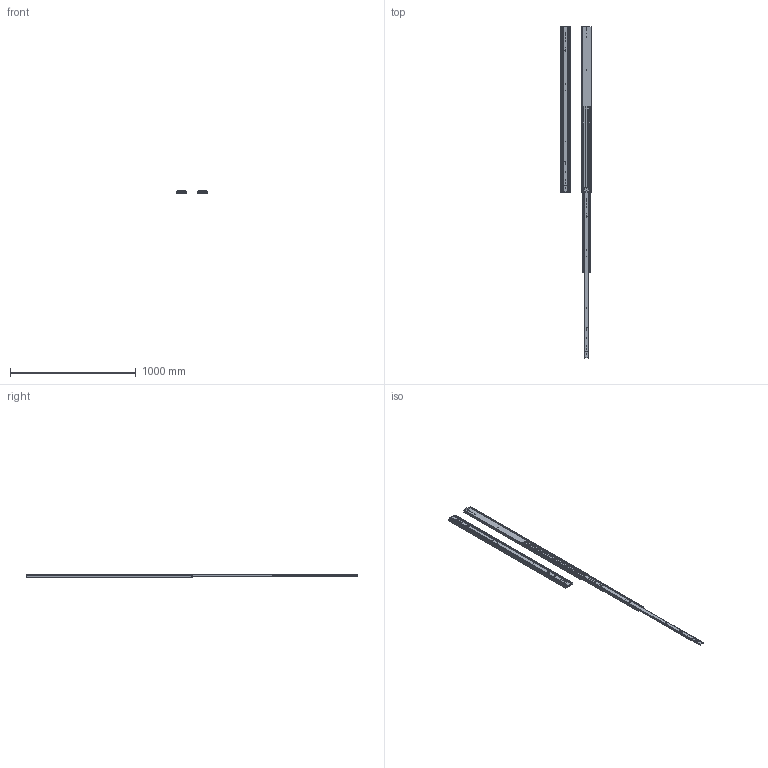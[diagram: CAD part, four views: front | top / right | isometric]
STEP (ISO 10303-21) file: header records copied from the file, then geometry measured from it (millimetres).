
FILE_DESCRIPTION((''),'2;1');
FILE_NAME('ASSEM1_1_2_3_4_5_6_7_8_9_10__23_ASM','2026-04-08T09:54:56',('T260078'),(''),'CREO PARAMETRIC BY PTC INC, 2025123','CREO PARAMETRIC BY PTC INC, 2025123','');
FILE_SCHEMA(('CONFIG_CONTROL_DESIGN','SHAPE_APPEARANCE_LAYERS_GROUPS'));
Length unit declared in the file: millimetre
Products named in the file (6): 76J01-52_X2_540B_X0_-M_1; 76J01-52_X2_540B_X0_-I_1; 76J01-52_X2_540B_X0_-O_1; 76J01-52_X2_540_X0__1_ASM; 76J01-52_X2_540B_X0_-_X2_5C55_1_ASM; ASSEM1_1_2_3_4_5_6_7_8_9_10__23_ASM
Assembly tree (8 placements, depth 3):
  ASSEM1_1_2_3_4_5_6_7_8_9_10__23_ASM
    76J01-52_X2_540_X0__1_ASM
      76J01-52_X2_540B_X0_-M_1
      76J01-52_X2_540B_X0_-I_1
      76J01-52_X2_540B_X0_-O_1
    76J01-52_X2_540B_X0_-_X2_5C55_1_ASM
      76J01-52_X2_540B_X0_-M_1
      76J01-52_X2_540B_X0_-I_1
      76J01-52_X2_540B_X0_-O_1
Bounding box: 245.44 x 2641.6 x 19.3 mm (x, y, z)
Volume: 1632707.8 mm3; surface area: 1646477.3 mm2
Topology: 6 solids, 8 shells, 382 faces, 1296 edges, 916 vertices
Faces by surface type: cylinder 212, plane 170
Entity records: 8797 total; most frequent: CARTESIAN_POINT 1468, DIRECTION 1306, ORIENTED_EDGE 1262, EDGE_CURVE 648, AXIS2_PLACEMENT_3D 467, VERTEX_POINT 458, VECTOR 372, LINE 372
